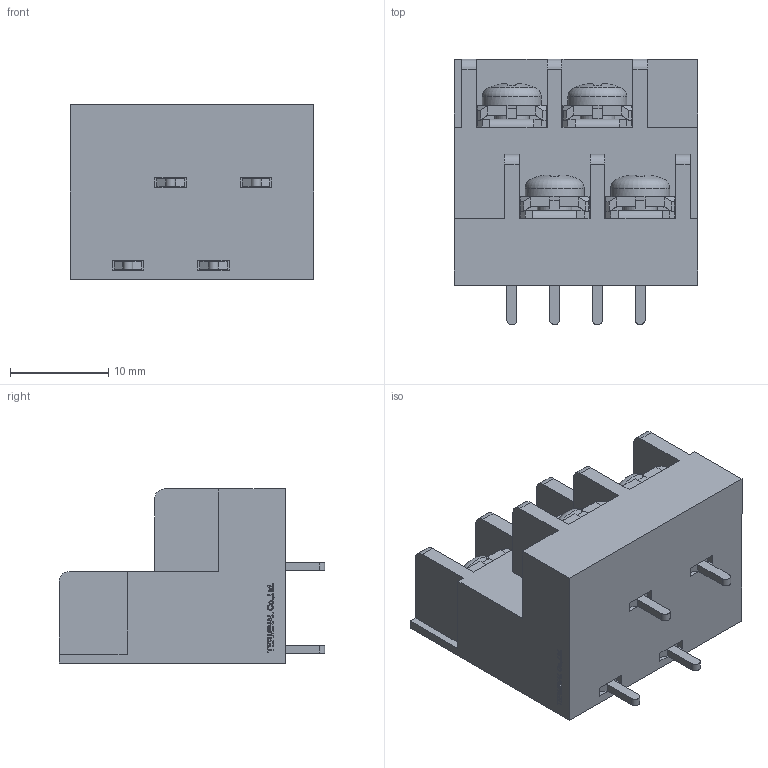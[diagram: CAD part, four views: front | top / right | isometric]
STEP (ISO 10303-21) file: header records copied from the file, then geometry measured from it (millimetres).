
FILE_DESCRIPTION(/* description */ ('Alibre Inc.'),/* implementation_level */ '2;1');
FILE_NAME(/* name */ 'export-7114475A-E866-46B6-BEF3-0EEC1DABF988',/* time_stamp */ '2021-02-08T16:56:59+09:00',/* author */ (''),/* organization */ (''),/* preprocessor_version */ 'ST-DEVELOPER v17',/* originating_system */ 'Alibre',/* authorisation */ '');
FILE_SCHEMA (('CONFIG_CONTROL_DESIGN'));
Length unit declared in the file: millimetre
Bounding box: 24.75 x 27 x 17.7 mm (x, y, z)
Volume: 6258.2 mm3; surface area: 4294.4 mm2
Topology: 1 solids, 21 shells, 980 faces, 2486 edges, 1592 vertices
Faces by surface type: plane 696, bspline 194, cylinder 38, extrusion 16, cone 16, torus 12, sphere 8
Full cylindrical faces by diameter (mm): 3.5 x8, 4.5 x4, 5 x4, 6 x4
Entity records: 30211 total; most frequent: CARTESIAN_POINT 9251, ORIENTED_EDGE 4876, DIRECTION 2913, EDGE_CURVE 2438, VECTOR 1770, LINE 1762, VERTEX_POINT 1576, EDGE_LOOP 1072
